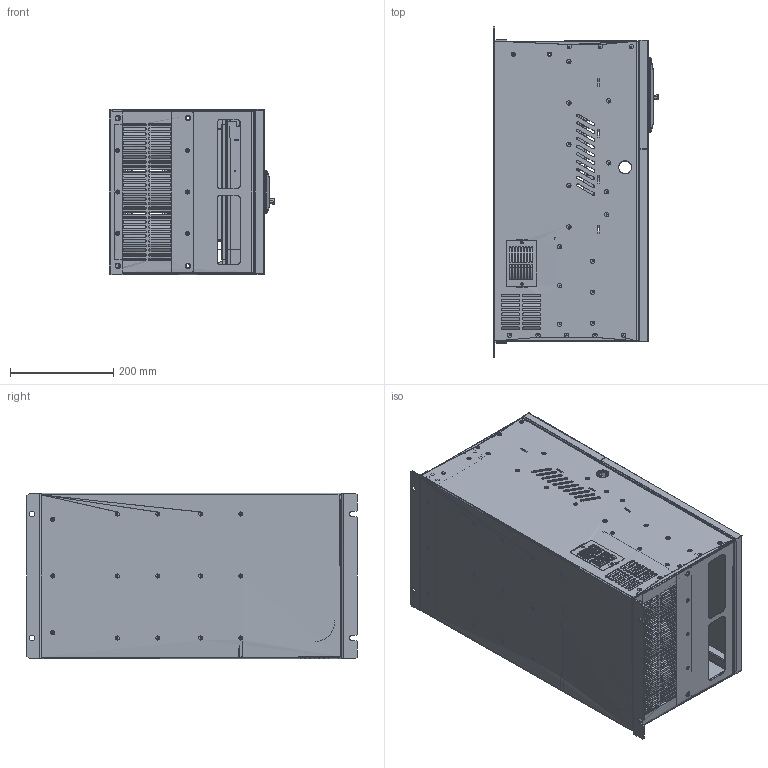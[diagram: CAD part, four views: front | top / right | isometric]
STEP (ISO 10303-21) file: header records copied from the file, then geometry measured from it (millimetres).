
FILE_DESCRIPTION (( 'STEP AP214' ), '1' );
FILE_NAME ('V2000-90KW.STEP', '2024-08-13T06:15:56', ( 'ﾏ珞褄' ), ( '' ), 'SwSTEP 2.0', 'SolidWorks 2022', '' );
FILE_SCHEMA (( 'AUTOMOTIVE_DESIGN' ));
Length unit declared in the file: millimetre
Products named in the file (80): V2000-90KW39.STEP; V2000-90KW63.STEP; V2000-90KW182.STEP; V2000-90KW188.STEP; V2000-90KW147.STEP; V2000-90KW61.STEP; V2000-90KW103.STEP; V2000-90KW64.STEP; V2000-90KW6.STEP; V2000-90KW152.STEP; V2000-90KW26.STEP; V2000-90KW171.STEP; V2000-90KW128.STEP; V2000-90KW19.STEP; V2000-90KW120.STEP; V2000-90KW60.STEP; V2000-90KW132.STEP; V2000-90KW158.STEP; V2000-90KW206.STEP; V2000-90KW136.STEP; V2000-90KW166.STEP; V2000-90KW153.STEP; V2000-90KW10.STEP; V2000-90KW170.STEP; V2000-90KW106.STEP; V2000-90KW164.STEP; V2000-90KW73.STEP; V2000-90KW187.STEP; V2000-90KW95.STEP; V2000-90KW36.STEP; V2000-90KW138.STEP; V2000-90KW181.STEP; V2000-90KW146.STEP; V2000-90KW43.STEP; V2000-90KW177.STEP; V2000-90KW72.STEP; V2000-90KW1.STEP; V2000-90KW80.STEP; V2000-90KW21.STEP; V2000-90KW184.STEP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
Assembly tree (79 placements, depth 3):
  V2000-90KW
    V2000-90KW.STEP
      V2000-90KW1.STEP
      V2000-90KW6.STEP
      V2000-90KW10.STEP
      V2000-90KW14.STEP
      V2000-90KW18.STEP
      V2000-90KW19.STEP
      V2000-90KW20.STEP
      V2000-90KW21.STEP
      V2000-90KW26.STEP
      V2000-90KW32.STEP
      V2000-90KW36.STEP
      V2000-90KW39.STEP
      V2000-90KW41.STEP
      V2000-90KW43.STEP
      V2000-90KW47.STEP
      V2000-90KW50.STEP
      V2000-90KW52.STEP
      V2000-90KW55.STEP
      V2000-90KW59.STEP
      V2000-90KW60.STEP
      V2000-90KW61.STEP
      V2000-90KW62.STEP
      V2000-90KW63.STEP
      V2000-90KW64.STEP
      V2000-90KW68.STEP
      V2000-90KW72.STEP
      V2000-90KW73.STEP
      V2000-90KW76.STEP
      V2000-90KW78.STEP
      V2000-90KW80.STEP
      V2000-90KW81.STEP
      V2000-90KW85.STEP
      V2000-90KW86.STEP
      V2000-90KW89.STEP
      V2000-90KW95.STEP
      V2000-90KW100.STEP
      V2000-90KW103.STEP
      V2000-90KW105.STEP
      V2000-90KW106.STEP
      V2000-90KW111.STEP
      V2000-90KW116.STEP
      V2000-90KW119.STEP
      V2000-90KW120.STEP
      V2000-90KW127.STEP
      V2000-90KW128.STEP
      V2000-90KW129.STEP
      V2000-90KW132.STEP
      V2000-90KW136.STEP
      V2000-90KW138.STEP
      V2000-90KW146.STEP
      V2000-90KW147.STEP
      V2000-90KW148.STEP
      V2000-90KW152.STEP
      V2000-90KW153.STEP
      V2000-90KW157.STEP
      V2000-90KW158.STEP
      V2000-90KW159.STEP
      V2000-90KW163.STEP
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Bounding box: 319.6 x 639.2 x 320 mm (x, y, z)
Surface area: 4777230.9 mm2
Topology: 1 solids, 90 shells, 1884 faces, 8522 edges, 6661 vertices
Faces by surface type: plane 938, cylinder 884, bspline 35, cone 27
Entity records: 144604 total; most frequent: CARTESIAN_POINT 80306, ORIENTED_EDGE 12880, EDGE_CURVE 8512, B_SPLINE_CURVE_WITH_KNOTS 8458, VERTEX_POINT 6660, DIRECTION 3856, EDGE_LOOP 2991, AXIS2_PLACEMENT_3D 1928
